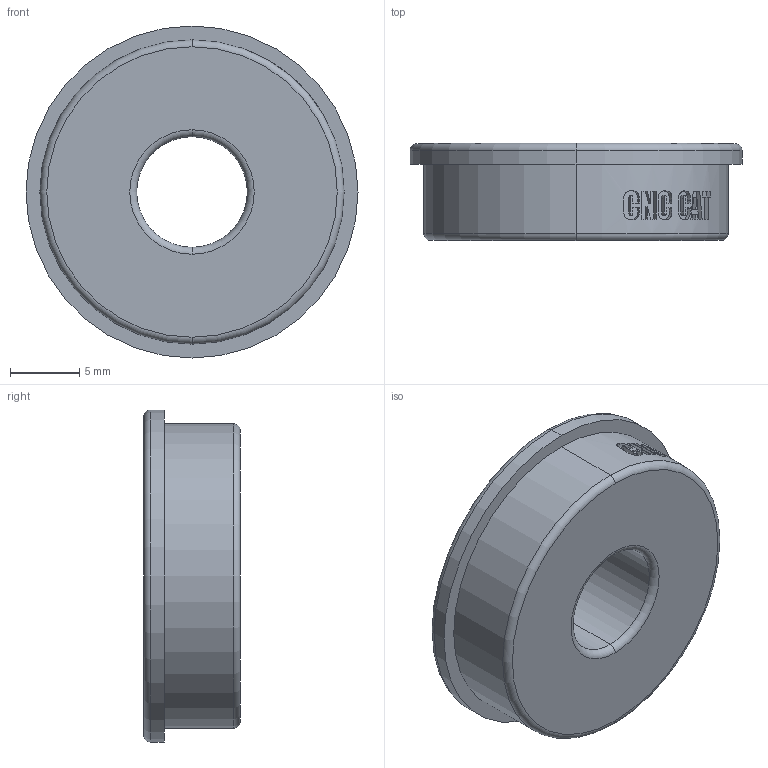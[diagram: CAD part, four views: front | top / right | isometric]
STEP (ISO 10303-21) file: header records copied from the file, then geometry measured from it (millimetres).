
FILE_DESCRIPTION (( 'STEP AP203' ), '1' );
FILE_NAME ('8x22x7.STEP', '2017-08-13T09:20:52', ( '' ), ( '' ), 'SwSTEP 2.0', 'SolidWorks 2014', '' );
FILE_SCHEMA (( 'CONFIG_CONTROL_DESIGN' ));
Length unit declared in the file: millimetre
Products named in the file (1): 8x22x7
Bounding box: 24 x 7 x 24 mm (x, y, z)
Volume: 2403.5 mm3; surface area: 1446.7 mm2
Topology: 1 solids, 1 shells, 101 faces, 265 edges, 174 vertices
Faces by surface type: plane 48, bspline 32, cylinder 13, torus 8
Entity records: 6718 total; most frequent: CARTESIAN_POINT 4403, ORIENTED_EDGE 530, DIRECTION 356, EDGE_CURVE 265, VERTEX_POINT 174, AXIS2_PLACEMENT_3D 136, B_SPLINE_CURVE_WITH_KNOTS 115, EDGE_LOOP 111
